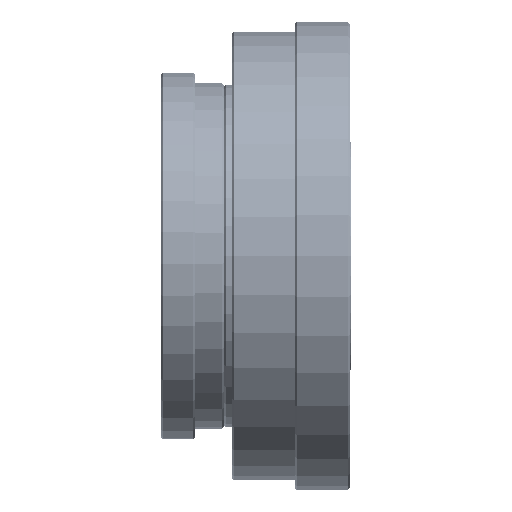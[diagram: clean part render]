
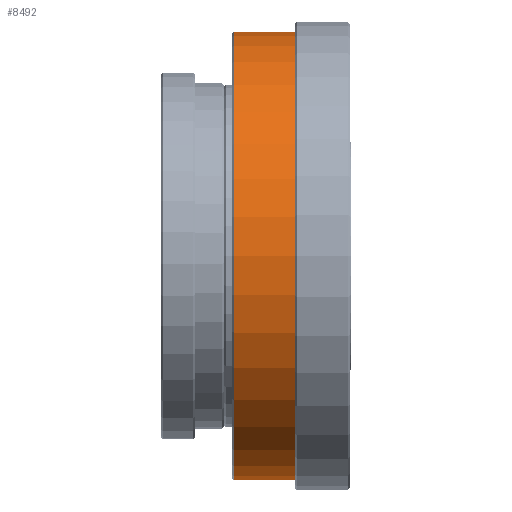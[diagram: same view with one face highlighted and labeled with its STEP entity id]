
A CAD part, left-side view. The second image highlights one B-rep face of the part: STEP entity #8492.
In plain terms, the highlighted cylindrical face has radius 55 mm (diameter 110 mm), a full revolution.
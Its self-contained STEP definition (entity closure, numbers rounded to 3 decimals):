
#7473=CYLINDRICAL_SURFACE('',#24325,55.);
#8492=ADVANCED_FACE('',(#11280,#11281),#7473,.T.);
#9795=CIRCLE('',#24323,55.);
#9796=CIRCLE('',#24324,55.);
#11280=FACE_BOUND('',#13069,.T.);
#11281=FACE_BOUND('',#13070,.T.);
#13069=EDGE_LOOP('',(#16820));
#13070=EDGE_LOOP('',(#16821));
#16820=ORIENTED_EDGE('',*,*,#21204,.T.);
#16821=ORIENTED_EDGE('',*,*,#21205,.T.);
#19145=VERTEX_POINT('',#185865);
#19146=VERTEX_POINT('',#185867);
#21204=EDGE_CURVE('',#19145,#19145,#9795,.T.);
#21205=EDGE_CURVE('',#19146,#19146,#9796,.T.);
#24323=AXIS2_PLACEMENT_3D('',#185864,#28314,#28315);
#24324=AXIS2_PLACEMENT_3D('',#185866,#28316,#28317);
#24325=AXIS2_PLACEMENT_3D('',#185868,#28318,#28319);
#28314=DIRECTION('',(0.,0.,1.));
#28315=DIRECTION('',(1.,0.,0.));
#28316=DIRECTION('',(0.,0.,-1.));
#28317=DIRECTION('',(1.,0.,0.));
#28318=DIRECTION('',(0.,0.,-1.));
#28319=DIRECTION('',(1.,0.,0.));
#185864=CARTESIAN_POINT('',(0.,0.,0.5));
#185865=CARTESIAN_POINT('',(55.,0.,0.5));
#185866=CARTESIAN_POINT('',(0.,0.,18.2));
#185867=CARTESIAN_POINT('',(55.,0.,18.2));
#185868=CARTESIAN_POINT('',(0.,0.,18.7));
